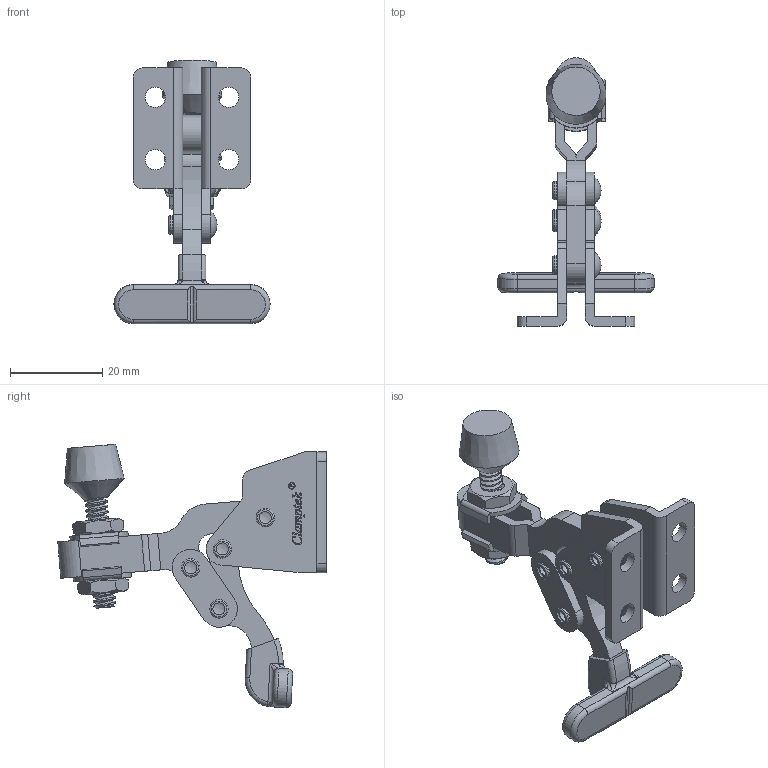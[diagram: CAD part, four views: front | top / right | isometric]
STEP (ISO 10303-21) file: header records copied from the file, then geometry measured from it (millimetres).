
FILE_DESCRIPTION(/* description */ ('STEP AP203'),/* implementation_level */ '2;1');
FILE_NAME(/* name */ 'D:\Vault_2016\Projekty\STRONA\Vertical toggle clamp\Do zrobienia 3\CH-13005\CH-13005_OTWARTY.stp',/* time_stamp */ '2019-01-22T13:52:35+01:00',/* author */ ('user'),/* organization */ ('Î¢ÈíÖÐ¹ú'),/* preprocessor_version */ 'ST-DEVELOPER v17.2',/* originating_system */ 'Autodesk Inventor 2019',/* authorisation */ '');
FILE_SCHEMA (('AUTOMOTIVE_DESIGN { 1 0 10303 214 3 1 1 }'));
Length unit declared in the file: millimetre
Products named in the file (9): CH-13005; CH-13005-03 T-HANDLE; CH-13005-01 FLANGED BASE; CH-13005-02 U-BAR; CH-13005-04 CONNECTING-PLATE; CH-FC-10138 SPINDLE SUPPLIED; CH-13005-05 ; CH-FW-100; CH-FC-10138 Nut
Assembly tree (14 placements, depth 2):
  CH-13005
    CH-13005-04 CONNECTING-PLATE  x2
    CH-13005-03 T-HANDLE
    CH-13005-01 FLANGED BASE
    CH-13005-02 U-BAR
    CH-FW-100  x2
    CH-13005-05   x4
    CH-FC-10138 SPINDLE SUPPLIED
    CH-FC-10138 Nut  x2
Bounding box: 33.8 x 58.12 x 57.01 mm (x, y, z)
Volume: 9442.3 mm3; surface area: 10501.6 mm2
Topology: 15 solids, 16 shells, 602 faces, 1651 edges, 1110 vertices
Faces by surface type: plane 248, bspline 196, cylinder 123, torus 19, cone 12, sphere 4
Full cylindrical faces by diameter (mm): 1.219 x1, 1.442 x1, 3 x16, 3.8 x4, 4 x4, 4.4 x4, 4.8 x19, 4.9 x2, 9.526 x1
Entity records: 35603 total; most frequent: CARTESIAN_POINT 22720, ORIENTED_EDGE 2946, DIRECTION 1979, EDGE_CURVE 1473, VERTEX_POINT 987, LINE 779, VECTOR 779, AXIS2_PLACEMENT_3D 600
